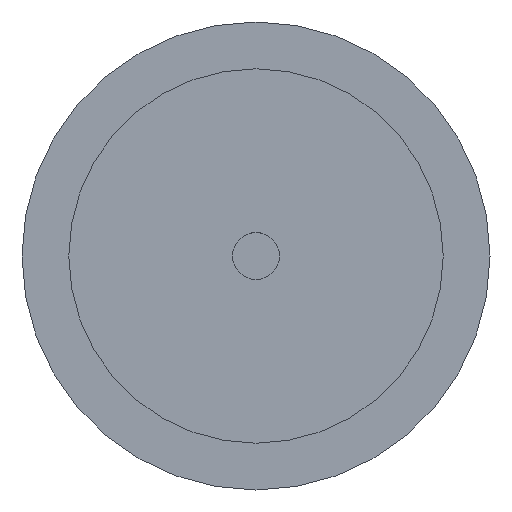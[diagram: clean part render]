
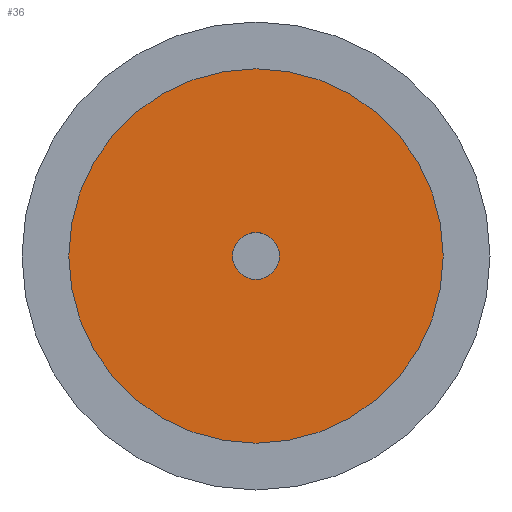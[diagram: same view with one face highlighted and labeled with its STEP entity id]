
A CAD part, left-side view. The second image highlights one B-rep face of the part: STEP entity #36.
In plain terms, the highlighted planar face has unit normal (-1, 0, 0).
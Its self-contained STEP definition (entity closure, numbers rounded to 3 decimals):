
#13 = EDGE_CURVE ( 'NONE', #14, #15, #580, .T. ) ;
#14 = VERTEX_POINT ( 'NONE', #575 ) ;
#15 = VERTEX_POINT ( 'NONE', #574 ) ;
#36 = ADVANCED_FACE ( 'NONE', ( #426, #425 ), #424, .F. ) ;
#37 = EDGE_LOOP ( 'NONE', ( #44, #48 ) ) ;
#43 = ORIENTED_EDGE ( 'NONE', *, *, #546, .T. ) ;
#44 = ORIENTED_EDGE ( 'NONE', *, *, #13, .F. ) ;
#45 = EDGE_CURVE ( 'NONE', #15, #14, #337, .T. ) ;
#46 = EDGE_LOOP ( 'NONE', ( #43, #60 ) ) ;
#48 = ORIENTED_EDGE ( 'NONE', *, *, #45, .F. ) ;
#60 = ORIENTED_EDGE ( 'NONE', *, *, #61, .T. ) ;
#61 = EDGE_CURVE ( 'NONE', #554, #556, #312, .T. ) ;
#308 = DIRECTION ( 'NONE',  ( 0., 0., -1. ) ) ;
#309 = DIRECTION ( 'NONE',  ( 1., 0., 0. ) ) ;
#310 = CARTESIAN_POINT ( 'NONE',  ( -7., 0., 0. ) ) ;
#311 = AXIS2_PLACEMENT_3D ( 'NONE', #310, #309, #308 ) ;
#312 = CIRCLE ( 'NONE', #311, 1.5 ) ;
#333 = DIRECTION ( 'NONE',  ( 0., 0., -1. ) ) ;
#334 = DIRECTION ( 'NONE',  ( 1., 0., 0. ) ) ;
#335 = CARTESIAN_POINT ( 'NONE',  ( -7., 0., 0. ) ) ;
#336 = AXIS2_PLACEMENT_3D ( 'NONE', #335, #334, #333 ) ;
#337 = CIRCLE ( 'NONE', #336, 12. ) ;
#420 = DIRECTION ( 'NONE',  ( 0., 0., -1. ) ) ;
#421 = DIRECTION ( 'NONE',  ( 1., 0., 0. ) ) ;
#422 = CARTESIAN_POINT ( 'NONE',  ( -7., 0., 0. ) ) ;
#423 = AXIS2_PLACEMENT_3D ( 'NONE', #422, #421, #420 ) ;
#424 = PLANE ( 'NONE',  #423 ) ;
#425 = FACE_BOUND ( 'NONE', #46, .T. ) ;
#426 = FACE_OUTER_BOUND ( 'NONE', #37, .T. ) ;
#546 = EDGE_CURVE ( 'NONE', #556, #554, #2205, .T. ) ;
#554 = VERTEX_POINT ( 'NONE', #2191 ) ;
#556 = VERTEX_POINT ( 'NONE', #2190 ) ;
#574 = CARTESIAN_POINT ( 'NONE',  ( -7., 0., 12. ) ) ;
#575 = CARTESIAN_POINT ( 'NONE',  ( -7., 0., -12. ) ) ;
#576 = DIRECTION ( 'NONE',  ( 0., 0., -1. ) ) ;
#577 = DIRECTION ( 'NONE',  ( 1., 0., 0. ) ) ;
#578 = CARTESIAN_POINT ( 'NONE',  ( -7., 0., 0. ) ) ;
#579 = AXIS2_PLACEMENT_3D ( 'NONE', #578, #577, #576 ) ;
#580 = CIRCLE ( 'NONE', #579, 12. ) ;
#2190 = CARTESIAN_POINT ( 'NONE',  ( -7., 0., 1.5 ) ) ;
#2191 = CARTESIAN_POINT ( 'NONE',  ( -7., 0., -1.5 ) ) ;
#2201 = DIRECTION ( 'NONE',  ( 0., 0., -1. ) ) ;
#2202 = DIRECTION ( 'NONE',  ( 1., 0., 0. ) ) ;
#2203 = CARTESIAN_POINT ( 'NONE',  ( -7., 0., 0. ) ) ;
#2204 = AXIS2_PLACEMENT_3D ( 'NONE', #2203, #2202, #2201 ) ;
#2205 = CIRCLE ( 'NONE', #2204, 1.5 ) ;
